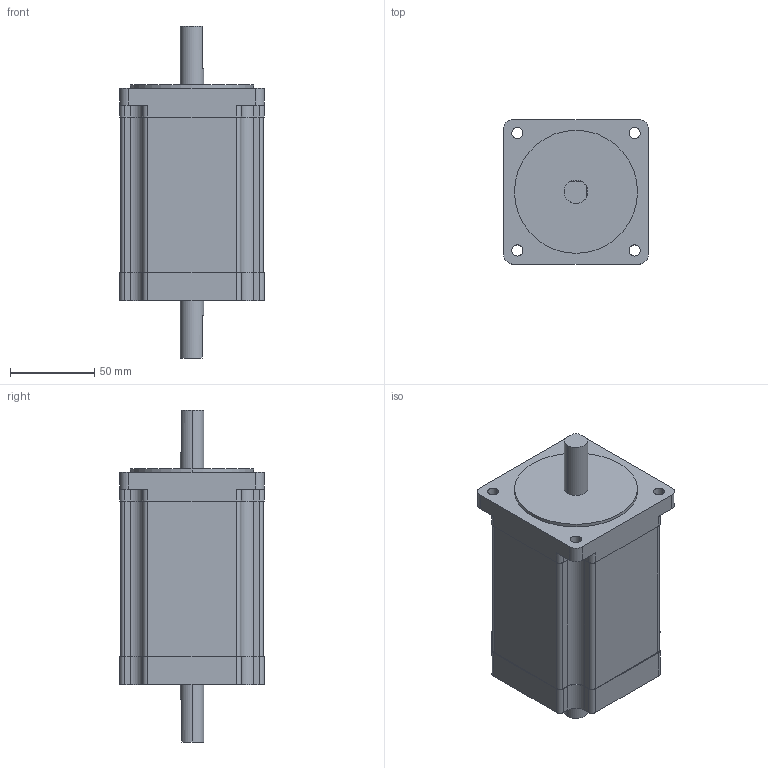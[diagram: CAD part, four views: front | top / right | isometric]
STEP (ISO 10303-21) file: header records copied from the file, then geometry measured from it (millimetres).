
FILE_DESCRIPTION (( 'STEP AP214' ), '1' );
FILE_NAME ('EXMK2913-04B.STEP', '2016-09-09T06:11:09', ( 'hoho' ), ( '' ), 'SwSTEP 2.0', 'SolidWorks 2013', '' );
FILE_SCHEMA (( 'AUTOMOTIVE_DESIGN' ));
Length unit declared in the file: millimetre
Products named in the file (1): EXMK2913-04B
Bounding box: 85.8 x 85.8 x 197 mm (x, y, z)
Volume: 848283.2 mm3; surface area: 59274.3 mm2
Topology: 1 solids, 1 shells, 109 faces, 306 edges, 204 vertices
Faces by surface type: plane 55, cylinder 54
Entity records: 3892 total; most frequent: DIRECTION 642, CARTESIAN_POINT 620, ORIENTED_EDGE 612, EDGE_CURVE 306, AXIS2_PLACEMENT_3D 226, VERTEX_POINT 204, VECTOR 190, LINE 190
